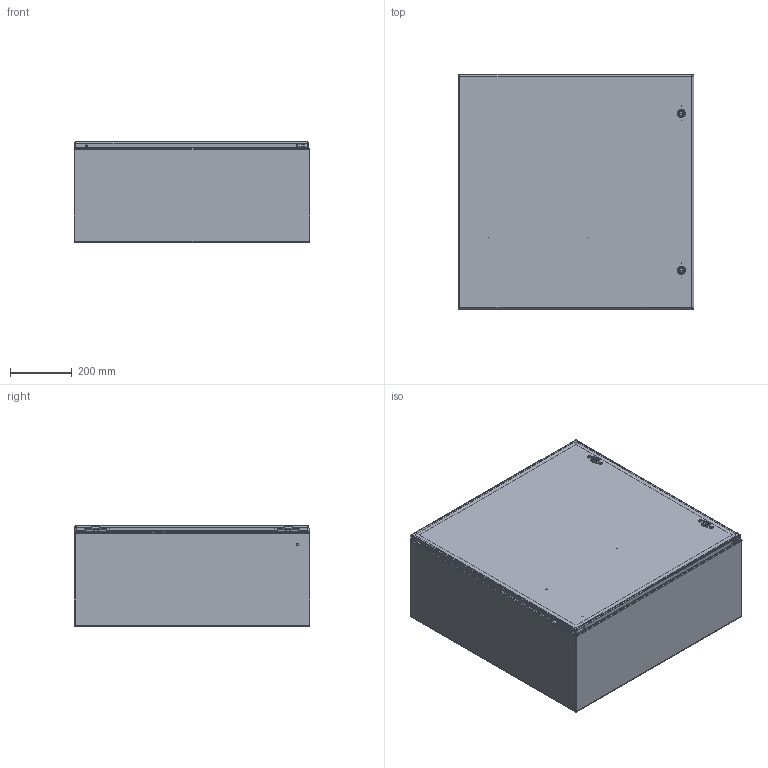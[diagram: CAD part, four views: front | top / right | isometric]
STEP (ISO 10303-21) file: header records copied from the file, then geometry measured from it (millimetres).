
FILE_DESCRIPTION (( 'STEP AP203' ), '1' );
FILE_NAME ('csd303012.STEP', '2012-06-11T16:19:45', ( 'User' ), ( 'Pentair Inc' ), 'SwSTEP 2.0', 'SolidWorks 2010', '' );
FILE_SCHEMA (( 'CONFIG_CONTROL_DESIGN' ));
Length unit declared in the file: inch
Products named in the file (27): csd303012; 89045983; 87755937_default; 23271001_After Weld; 87937941_assy; 87937981_weldment; 87936140; 99401225; 87931362_87931362; 64101001; 64201001; 87541994_Installed Height; 87541995; 64202001; 64210001; 64203001; 87927840_87927840; 87932903; 64138001; 87938008; 87543027; 89076399; 89076193; 89056623; 87929507; 87929767; 87929769_Installed on Pin
Assembly tree (43 placements, depth 4):
  csd303012
    87543027  x2
    89076399  x2
      89056623
      89076193
    87937941_assy
      87937981_weldment
        87931362_87931362  x6
        99401225
        87936140
      87932903  x4
      64101001  x2
        87927840_87927840
        64201001
        64202001
        87541995
        64210001
        87541994_Installed Height
        64203001
      87938008
      64138001  x2
    87929507  x2
      87929769_Installed on Pin
      87929767
    89045983
      23271001_After Weld  x4
      87755937_default
      99401225
Bounding box: 762 x 762.77 x 325.5 mm (x, y, z)
Volume: 4280128.8 mm3; surface area: 4584611.9 mm2
Topology: 47 solids, 47 shells, 2339 faces, 5778 edges, 3488 vertices
Faces by surface type: plane 851, cylinder 712, bspline 512, cone 132, torus 124, sphere 8
Entity records: 46953 total; most frequent: CARTESIAN_POINT 16403, ORIENTED_EDGE 5966, DIRECTION 5241, EDGE_CURVE 2983, AXIS2_PLACEMENT_3D 1884, VERTEX_POINT 1830, LINE 1473, VECTOR 1473
